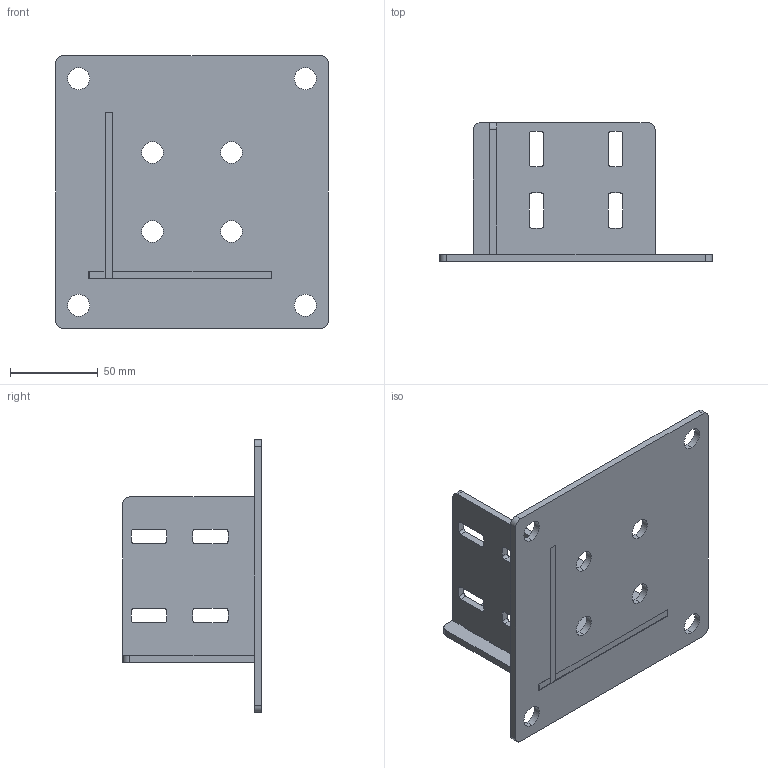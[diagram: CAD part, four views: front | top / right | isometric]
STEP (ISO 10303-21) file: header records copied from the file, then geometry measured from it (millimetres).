
FILE_DESCRIPTION (( 'STEP AP203' ), '1' );
FILE_NAME ('11453.STEP', '2016-08-02T12:44:02', ( '' ), ( '' ), 'SwSTEP 2.0', 'SolidWorks 2014', '' );
FILE_SCHEMA (( 'CONFIG_CONTROL_DESIGN' ));
Length unit declared in the file: millimetre
Products named in the file (7): 11453; 11453-1; 11453-2; 11453-3
Assembly tree (3 placements, depth 2):
  11453
    11453-1
    11453-2
    11453-3
  11453-1
  11453-2
  11453-3
Bounding box: 155 x 79 x 155 mm (x, y, z)
Volume: 144336.3 mm3; surface area: 82545.2 mm2
Topology: 3 solids, 3 shells, 143 faces, 411 edges, 274 vertices
Faces by surface type: plane 88, cylinder 55
Entity records: 5415 total; most frequent: CARTESIAN_POINT 835, ORIENTED_EDGE 822, DIRECTION 821, EDGE_CURVE 411, VECTOR 301, LINE 301, VERTEX_POINT 274, AXIS2_PLACEMENT_3D 260
